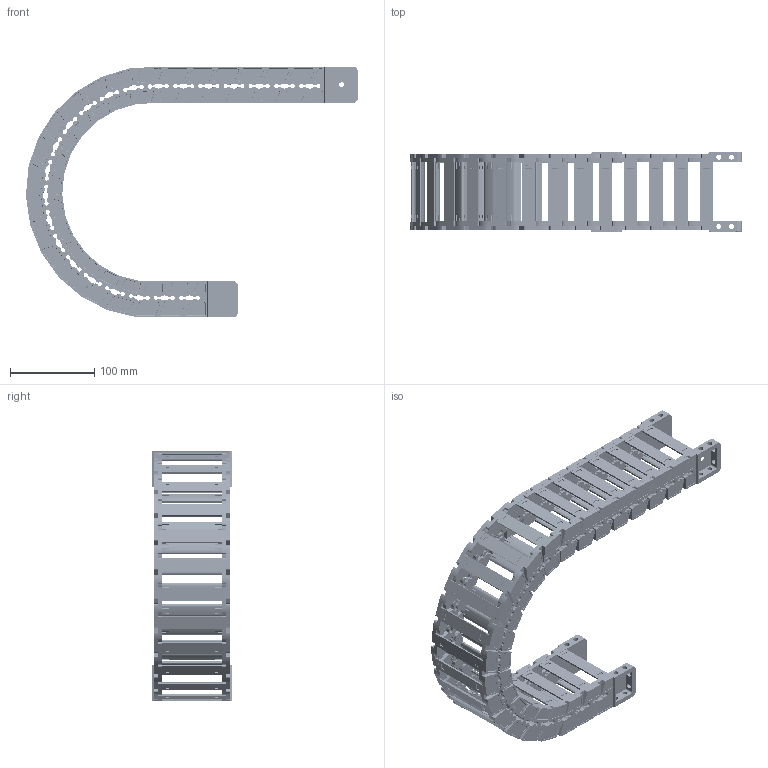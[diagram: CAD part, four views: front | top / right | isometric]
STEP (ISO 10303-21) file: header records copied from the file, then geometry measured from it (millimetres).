
FILE_DESCRIPTION((''),'2;1');
FILE_NAME('JY-35X70-R125_ASM','2025-01-05T19:43:58',('admin'),(''),'CREO PARAMETRIC BY PTC INC, 2021023','CREO PARAMETRIC BY PTC INC, 2021023','');
FILE_SCHEMA(('CONFIG_CONTROL_DESIGN'));
Length unit declared in the file: millimetre
Products named in the file (11): 35XL-L; YP; 35XL-R; ASM0001_ASM; 35-LTT-A-L; 35-LTT-A-R; 35XL-LTT-A_ASM; 35-LTT-B-L; 35-LTT-B-R; 35XL-LTT-B_ASM; JY-35X70-R125_ASM
Assembly tree (35 placements, depth 3):
  JY-35X70-R125_ASM
    ASM0001_ASM  x21
      35XL-L
      YP
      35XL-R
    35XL-LTT-A_ASM
      35-LTT-A-L
      YP  x2
      35-LTT-A-R
    35XL-LTT-B_ASM
      35-LTT-B-L
      YP  x2
      35-LTT-B-R
Bounding box: 395.09 x 94.5 x 298.23 mm (x, y, z)
Volume: 658112 mm3; surface area: 392498.1 mm2
Topology: 92 solids, 92 shells, 7504 faces, 22500 edges, 15188 vertices
Faces by surface type: plane 4246, cylinder 2466, cone 484, extrusion 176, bspline 132
Entity records: 27890 total; most frequent: CARTESIAN_POINT 6168, ORIENTED_EDGE 4640, DIRECTION 4365, EDGE_CURVE 2320, VERTEX_POINT 1568, AXIS2_PLACEMENT_3D 1474, VECTOR 1417, LINE 1401
